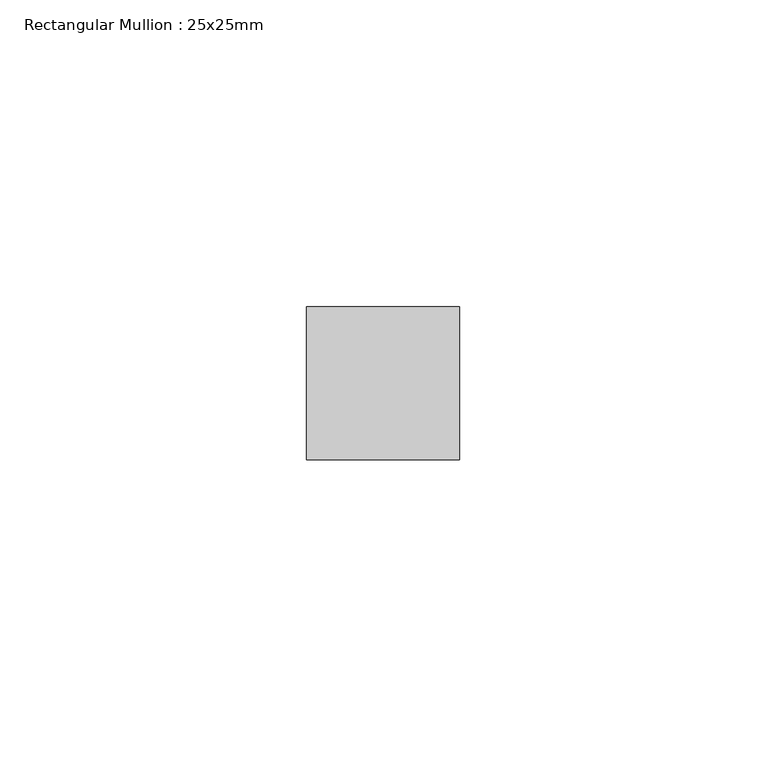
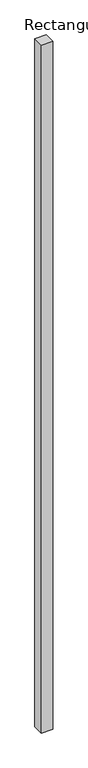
"""IFC4 building model written with IfcOpenShell, lengths in millimetres: member geometry, Rectangular Mullion : 25x25mm."""

from ifc_helpers import new_model, si_unit, frame, origin, place, context, project, spatial, polyline, outline, extrude, source, transform, mapped, element, save


def rectangular_mullion_25x25mm_a3ff25c1(model_context):
    return source(origin(), model_context, "Body", "SweptSolid", [
        extrude(outline(polyline([(12.5, 24.5), (12.5, -0.5), (-12.5, -0.5), (-12.5, 24.5), (12.5, 24.5)])), frame((0.0, 0.0, -1619.4444444), z_axis=(0.0, 0.0, 1.0), x_axis=(1.0, 0.0, 0.0)), (0.0, 0.0, 1.0), 1619.4444444),
    ])


if __name__ == "__main__":
    model = new_model("IFC4")
    model_context = context("Model", 3, world=origin())
    ifc_project = project(units=[si_unit("LENGTHUNIT", "METRE", prefix="MILLI")], contexts=[model_context])
    site = spatial("IfcSite", under=ifc_project)
    building = spatial("IfcBuilding", under=site)
    placement = place(None, origin())
    rectangular_mullion_25x25mm_shape = rectangular_mullion_25x25mm_a3ff25c1(model_context)
    element("IfcMember", 1, ObjectType="Rectangular Mullion : 25x25mm", at=placement, inside=building, context=model_context, shape_type="MappedRepresentation", body=[
        mapped(rectangular_mullion_25x25mm_shape, transform((0.0, 0.0, 0.0), x_axis=(1.0, 0.0, 0.0), y_axis=(0.0, 1.0, 0.0), z_axis=(0.0, 0.0, 1.0))),
    ])
    save(model, "model.ifc")
